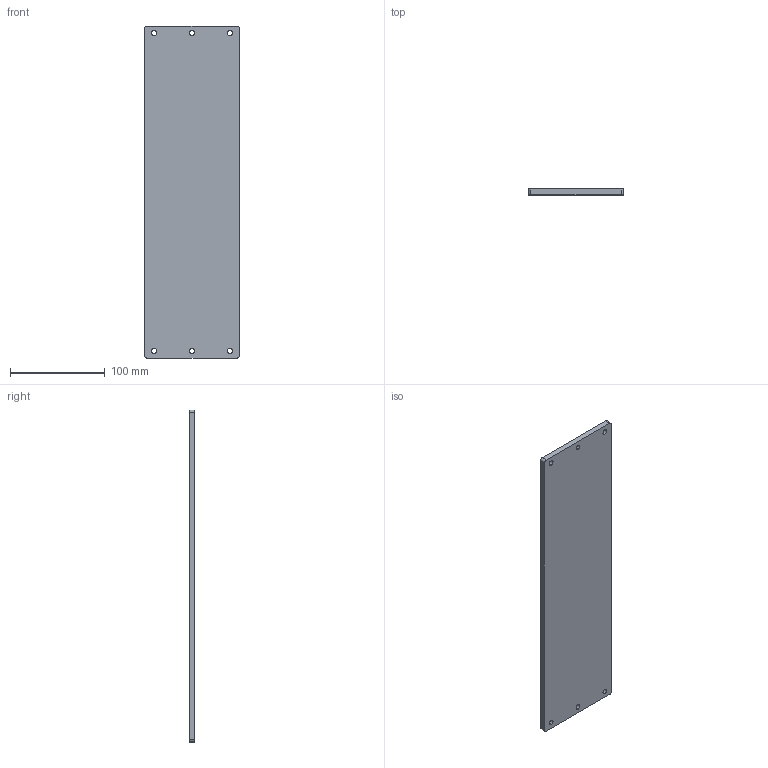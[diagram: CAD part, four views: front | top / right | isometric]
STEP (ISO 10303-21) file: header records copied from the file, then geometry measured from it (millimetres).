
FILE_DESCRIPTION (( 'STEP AP214' ), '1' );
FILE_NAME ('AGZ061.11_V1防护板.STEP', '2021-09-24T08:07:11', ( '微软中国' ), ( 'Microsoft' ), 'SwSTEP 2.0', 'SolidWorks 2017', '' );
FILE_SCHEMA (( 'AUTOMOTIVE_DESIGN' ));
Length unit declared in the file: millimetre
Products named in the file (1): AGZ061.11_V1滅誘啣
Bounding box: 100 x 6 x 350 mm (x, y, z)
Volume: 209112.5 mm3; surface area: 75700.5 mm2
Topology: 1 solids, 1 shells, 22 faces, 60 edges, 40 vertices
Faces by surface type: cylinder 16, plane 6
Entity records: 774 total; most frequent: DIRECTION 138, CARTESIAN_POINT 123, ORIENTED_EDGE 120, EDGE_CURVE 60, AXIS2_PLACEMENT_3D 55, VERTEX_POINT 40, EDGE_LOOP 34, CIRCLE 32
